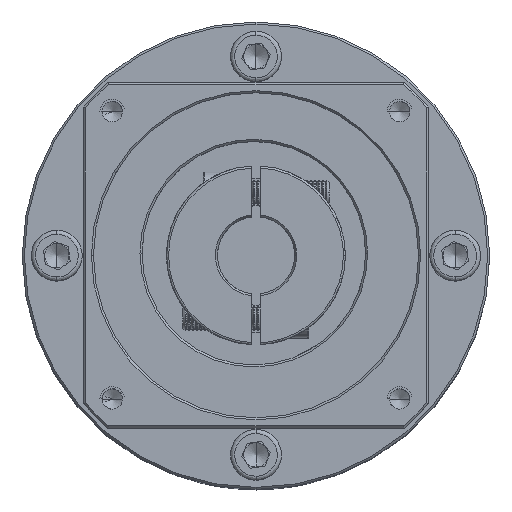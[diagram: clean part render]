
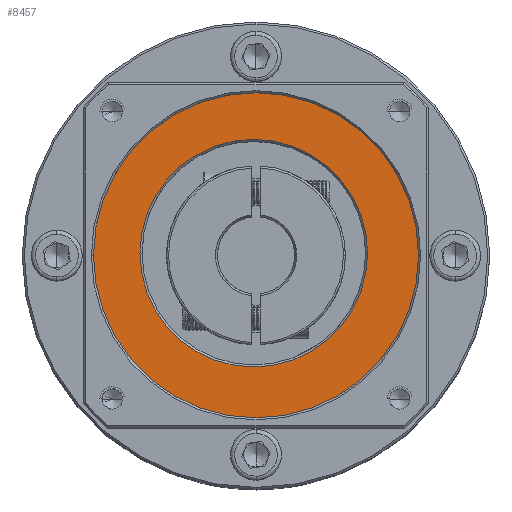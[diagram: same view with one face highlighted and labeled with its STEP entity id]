
A CAD part, top view. The second image highlights one B-rep face of the part: STEP entity #8457.
In plain terms, the highlighted planar face has unit normal (0, 0, 1).
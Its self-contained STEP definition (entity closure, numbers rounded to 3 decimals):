
#1653 = CARTESIAN_POINT ( 'NONE',  ( 119.561, -33.053, 37.592 ) ) ;
#2968 = VERTEX_POINT ( 'NONE', #1653 ) ;
#4305 = VERTEX_POINT ( 'NONE', #117041 ) ;
#6263 = EDGE_CURVE ( 'NONE', #4305, #2968, #80104, .T. ) ;
#8457 = ADVANCED_FACE ( 'NONE', ( #50629, #15936 ), #103108, .T. ) ;
#9712 = ORIENTED_EDGE ( 'NONE', *, *, #20980, .T. ) ;
#10733 = CARTESIAN_POINT ( 'NONE',  ( 92.103, -33.587, 37.592 ) ) ;
#15936 = FACE_BOUND ( 'NONE', #36399, .T. ) ;
#16046 = EDGE_CURVE ( 'NONE', #2968, #4305, #89416, .T. ) ;
#16150 = VERTEX_POINT ( 'NONE', #32075 ) ;
#19263 = DIRECTION ( 'NONE',  ( 1., 0., 0. ) ) ;
#19708 = AXIS2_PLACEMENT_3D ( 'NONE', #47940, #57253, #19263 ) ;
#20277 = DIRECTION ( 'NONE',  ( 0., 0., -1. ) ) ;
#20980 = EDGE_CURVE ( 'NONE', #16150, #86752, #112489, .T. ) ;
#23278 = ORIENTED_EDGE ( 'NONE', *, *, #16046, .T. ) ;
#26324 = CARTESIAN_POINT ( 'NONE',  ( 132.103, -33.587, 37.592 ) ) ;
#32075 = CARTESIAN_POINT ( 'NONE',  ( 52.103, -33.587, 37.592 ) ) ;
#36399 = EDGE_LOOP ( 'NONE', ( #23278, #116326 ) ) ;
#47940 = CARTESIAN_POINT ( 'NONE',  ( 92.103, -33.587, 37.592 ) ) ;
#48541 = DIRECTION ( 'NONE',  ( 1., 0., 0. ) ) ;
#50629 = FACE_OUTER_BOUND ( 'NONE', #50906, .T. ) ;
#50906 = EDGE_LOOP ( 'NONE', ( #105351, #9712 ) ) ;
#57253 = DIRECTION ( 'NONE',  ( 0., 0., 1. ) ) ;
#58046 = DIRECTION ( 'NONE',  ( 1., 0., 0. ) ) ;
#60655 = AXIS2_PLACEMENT_3D ( 'NONE', #10733, #106560, #58046 ) ;
#60734 = DIRECTION ( 'NONE',  ( 1., 0., 0. ) ) ;
#61440 = CIRCLE ( 'NONE', #19708, 40. ) ;
#64285 = DIRECTION ( 'NONE',  ( 1., 0., 0. ) ) ;
#65122 = CARTESIAN_POINT ( 'NONE',  ( 92.103, -33.587, 37.592 ) ) ;
#80104 = CIRCLE ( 'NONE', #114830, 28. ) ;
#80983 = AXIS2_PLACEMENT_3D ( 'NONE', #87415, #20277, #48541 ) ;
#81420 = DIRECTION ( 'NONE',  ( 0., 0., -1. ) ) ;
#85359 = DIRECTION ( 'NONE',  ( 0., 0., 1. ) ) ;
#86752 = VERTEX_POINT ( 'NONE', #26324 ) ;
#87415 = CARTESIAN_POINT ( 'NONE',  ( 91.561, -33.053, 37.592 ) ) ;
#89416 = CIRCLE ( 'NONE', #80983, 28. ) ;
#100781 = CARTESIAN_POINT ( 'NONE',  ( 91.561, -33.053, 37.592 ) ) ;
#103108 = PLANE ( 'NONE',  #121496 ) ;
#105351 = ORIENTED_EDGE ( 'NONE', *, *, #120046, .T. ) ;
#106560 = DIRECTION ( 'NONE',  ( 0., 0., 1. ) ) ;
#112489 = CIRCLE ( 'NONE', #60655, 40. ) ;
#114830 = AXIS2_PLACEMENT_3D ( 'NONE', #100781, #81420, #60734 ) ;
#116326 = ORIENTED_EDGE ( 'NONE', *, *, #6263, .T. ) ;
#117041 = CARTESIAN_POINT ( 'NONE',  ( 63.561, -33.053, 37.592 ) ) ;
#120046 = EDGE_CURVE ( 'NONE', #86752, #16150, #61440, .T. ) ;
#121496 = AXIS2_PLACEMENT_3D ( 'NONE', #65122, #85359, #64285 ) ;
